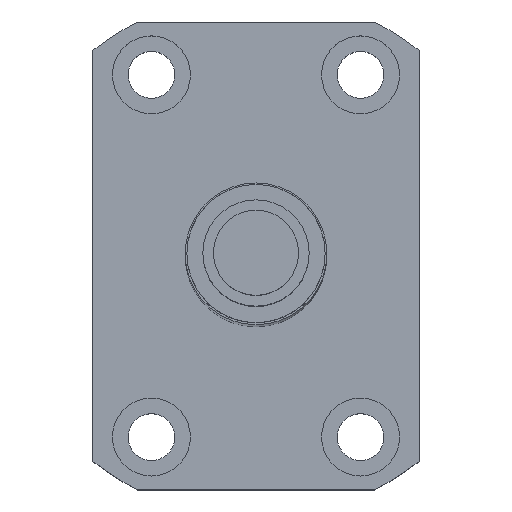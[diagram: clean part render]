
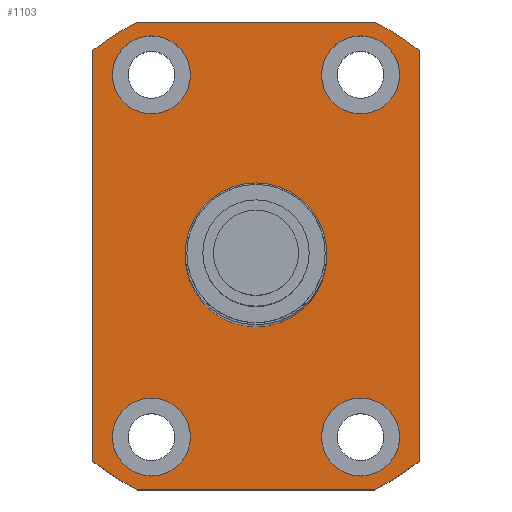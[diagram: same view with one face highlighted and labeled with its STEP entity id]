
A CAD part, top view. The second image highlights one B-rep face of the part: STEP entity #1103.
In plain terms, the highlighted planar face has unit normal (0, 0, 1).
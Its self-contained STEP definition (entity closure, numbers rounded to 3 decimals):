
#30=CARTESIAN_POINT('',(0.,0.,24.));
#31=DIRECTION('',(0.,0.,1.));
#32=DIRECTION('',(1.,0.,0.));
#33=AXIS2_PLACEMENT_3D('',#30,#31,#32);
#165=DIRECTION('',(0.,-1.,0.));
#166=VECTOR('',#165,57.966);
#167=CARTESIAN_POINT('',(23.,28.983,24.));
#168=LINE('',#167,#166);
#169=CARTESIAN_POINT('',(0.,0.,24.));
#170=DIRECTION('',(0.,0.,1.));
#171=DIRECTION('',(0.452,-0.892,0.));
#172=AXIS2_PLACEMENT_3D('',#169,#170,#171);
#174=DIRECTION('',(1.,0.,0.));
#175=VECTOR('',#174,33.466);
#176=CARTESIAN_POINT('',(-16.733,-33.,24.));
#177=LINE('',#176,#175);
#178=CARTESIAN_POINT('',(0.,0.,24.));
#179=DIRECTION('',(0.,0.,1.));
#180=DIRECTION('',(-0.622,-0.783,0.));
#181=AXIS2_PLACEMENT_3D('',#178,#179,#180);
#183=DIRECTION('',(0.,1.,0.));
#184=VECTOR('',#183,57.966);
#185=CARTESIAN_POINT('',(-23.,-28.983,24.));
#186=LINE('',#185,#184);
#187=CARTESIAN_POINT('',(0.,0.,24.));
#188=DIRECTION('',(0.,0.,1.));
#189=DIRECTION('',(-0.452,0.892,0.));
#190=AXIS2_PLACEMENT_3D('',#187,#188,#189);
#192=DIRECTION('',(-1.,0.,0.));
#193=VECTOR('',#192,33.466);
#194=CARTESIAN_POINT('',(16.733,33.,24.));
#195=LINE('',#194,#193);
#196=CARTESIAN_POINT('',(0.,0.,24.));
#197=DIRECTION('',(0.,0.,1.));
#198=DIRECTION('',(0.622,0.783,0.));
#199=AXIS2_PLACEMENT_3D('',#196,#197,#198);
#201=CARTESIAN_POINT('',(14.75,25.548,24.));
#202=DIRECTION('',(0.,0.,1.));
#203=DIRECTION('',(1.,0.,0.));
#204=AXIS2_PLACEMENT_3D('',#201,#202,#203);
#206=CARTESIAN_POINT('',(14.75,25.548,24.));
#207=DIRECTION('',(0.,0.,1.));
#208=DIRECTION('',(-1.,0.,0.));
#209=AXIS2_PLACEMENT_3D('',#206,#207,#208);
#211=CARTESIAN_POINT('',(-14.75,25.548,24.));
#212=DIRECTION('',(0.,0.,1.));
#213=DIRECTION('',(0.5,0.866,0.));
#214=AXIS2_PLACEMENT_3D('',#211,#212,#213);
#216=CARTESIAN_POINT('',(-14.75,25.548,24.));
#217=DIRECTION('',(0.,0.,1.));
#218=DIRECTION('',(-0.5,-0.866,0.));
#219=AXIS2_PLACEMENT_3D('',#216,#217,#218);
#221=CARTESIAN_POINT('',(-14.75,-25.548,24.));
#222=DIRECTION('',(0.,0.,1.));
#223=DIRECTION('',(-1.,0.,0.));
#224=AXIS2_PLACEMENT_3D('',#221,#222,#223);
#226=CARTESIAN_POINT('',(-14.75,-25.548,24.));
#227=DIRECTION('',(0.,0.,1.));
#228=DIRECTION('',(1.,0.,0.));
#229=AXIS2_PLACEMENT_3D('',#226,#227,#228);
#231=CARTESIAN_POINT('',(14.75,-25.548,24.));
#232=DIRECTION('',(0.,0.,1.));
#233=DIRECTION('',(-0.5,-0.866,0.));
#234=AXIS2_PLACEMENT_3D('',#231,#232,#233);
#236=CARTESIAN_POINT('',(14.75,-25.548,24.));
#237=DIRECTION('',(0.,0.,1.));
#238=DIRECTION('',(0.5,0.866,0.));
#239=AXIS2_PLACEMENT_3D('',#236,#237,#238);
#250=CARTESIAN_POINT('',(0.,0.,24.));
#251=DIRECTION('',(0.,0.,1.));
#252=DIRECTION('',(-1.,0.,0.));
#253=AXIS2_PLACEMENT_3D('',#250,#251,#252);
#757=CARTESIAN_POINT('',(10.,0.,24.));
#758=CARTESIAN_POINT('',(-10.,0.,24.));
#759=VERTEX_POINT('',#757);
#760=VERTEX_POINT('',#758);
#761=CARTESIAN_POINT('',(-23.,-28.983,24.));
#762=CARTESIAN_POINT('',(-16.733,-33.,24.));
#763=VERTEX_POINT('',#761);
#764=VERTEX_POINT('',#762);
#765=CARTESIAN_POINT('',(16.733,-33.,24.));
#766=VERTEX_POINT('',#765);
#767=CARTESIAN_POINT('',(23.,-28.983,24.));
#768=VERTEX_POINT('',#767);
#769=CARTESIAN_POINT('',(23.,28.983,24.));
#770=CARTESIAN_POINT('',(16.733,33.,24.));
#771=VERTEX_POINT('',#769);
#772=VERTEX_POINT('',#770);
#773=CARTESIAN_POINT('',(-16.733,33.,24.));
#774=VERTEX_POINT('',#773);
#775=CARTESIAN_POINT('',(-23.,28.983,24.));
#776=VERTEX_POINT('',#775);
#821=CARTESIAN_POINT('',(20.25,25.548,24.));
#822=CARTESIAN_POINT('',(9.25,25.548,24.));
#823=VERTEX_POINT('',#821);
#824=VERTEX_POINT('',#822);
#829=CARTESIAN_POINT('',(-12.,30.311,24.));
#830=CARTESIAN_POINT('',(-17.5,20.785,24.));
#831=VERTEX_POINT('',#829);
#832=VERTEX_POINT('',#830);
#841=CARTESIAN_POINT('',(-20.25,-25.548,24.));
#842=CARTESIAN_POINT('',(-9.25,-25.548,24.));
#843=VERTEX_POINT('',#841);
#844=VERTEX_POINT('',#842);
#853=CARTESIAN_POINT('',(12.,-30.311,24.));
#854=CARTESIAN_POINT('',(17.5,-20.785,24.));
#855=VERTEX_POINT('',#853);
#856=VERTEX_POINT('',#854);
#1052=CARTESIAN_POINT('',(0.,0.,24.));
#1053=DIRECTION('',(0.,0.,1.));
#1054=DIRECTION('',(1.,0.,0.));
#1055=AXIS2_PLACEMENT_3D('',#1052,#1053,#1054);
#1056=PLANE('',#1055);
#1058=ORIENTED_EDGE('',*,*,#1057,.T.);
#1060=ORIENTED_EDGE('',*,*,#1059,.F.);
#1062=ORIENTED_EDGE('',*,*,#1061,.F.);
#1064=ORIENTED_EDGE('',*,*,#1063,.F.);
#1066=ORIENTED_EDGE('',*,*,#1065,.T.);
#1068=ORIENTED_EDGE('',*,*,#1067,.F.);
#1070=ORIENTED_EDGE('',*,*,#1069,.F.);
#1072=ORIENTED_EDGE('',*,*,#1071,.F.);
#1073=EDGE_LOOP('',(#1058,#1060,#1062,#1064,#1066,#1068,#1070,#1072));
#1074=FACE_OUTER_BOUND('',#1073,.F.);
#1075=ORIENTED_EDGE('',*,*,#899,.T.);
#1077=ORIENTED_EDGE('',*,*,#1076,.T.);
#1078=EDGE_LOOP('',(#1075,#1077));
#1079=FACE_BOUND('',#1078,.F.);
#1080=ORIENTED_EDGE('',*,*,#1042,.T.);
#1082=ORIENTED_EDGE('',*,*,#1081,.T.);
#1083=EDGE_LOOP('',(#1080,#1082));
#1084=FACE_BOUND('',#1083,.F.);
#1086=ORIENTED_EDGE('',*,*,#1085,.T.);
#1088=ORIENTED_EDGE('',*,*,#1087,.T.);
#1089=EDGE_LOOP('',(#1086,#1088));
#1090=FACE_BOUND('',#1089,.F.);
#1092=ORIENTED_EDGE('',*,*,#1091,.T.);
#1094=ORIENTED_EDGE('',*,*,#1093,.T.);
#1095=EDGE_LOOP('',(#1092,#1094));
#1096=FACE_BOUND('',#1095,.F.);
#1098=ORIENTED_EDGE('',*,*,#1097,.T.);
#1100=ORIENTED_EDGE('',*,*,#1099,.T.);
#1101=EDGE_LOOP('',(#1098,#1100));
#1102=FACE_BOUND('',#1101,.F.);
#1103=ADVANCED_FACE('',(#1074,#1079,#1084,#1090,#1096,#1102),#1056,.T.);
#34=CIRCLE('',#33,10.);
#173=CIRCLE('',#172,37.);
#182=CIRCLE('',#181,37.);
#191=CIRCLE('',#190,37.);
#200=CIRCLE('',#199,37.);
#205=CIRCLE('',#204,5.5);
#210=CIRCLE('',#209,5.5);
#215=CIRCLE('',#214,5.5);
#220=CIRCLE('',#219,5.5);
#225=CIRCLE('',#224,5.5);
#230=CIRCLE('',#229,5.5);
#235=CIRCLE('',#234,5.5);
#240=CIRCLE('',#239,5.5);
#254=CIRCLE('',#253,10.);
#899=EDGE_CURVE('',#759,#760,#34,.T.);
#1042=EDGE_CURVE('',#823,#824,#205,.T.);
#1057=EDGE_CURVE('',#771,#768,#168,.T.);
#1059=EDGE_CURVE('',#766,#768,#173,.T.);
#1061=EDGE_CURVE('',#764,#766,#177,.T.);
#1063=EDGE_CURVE('',#763,#764,#182,.T.);
#1065=EDGE_CURVE('',#763,#776,#186,.T.);
#1067=EDGE_CURVE('',#774,#776,#191,.T.);
#1069=EDGE_CURVE('',#772,#774,#195,.T.);
#1071=EDGE_CURVE('',#771,#772,#200,.T.);
#1076=EDGE_CURVE('',#760,#759,#254,.T.);
#1081=EDGE_CURVE('',#824,#823,#210,.T.);
#1085=EDGE_CURVE('',#831,#832,#215,.T.);
#1087=EDGE_CURVE('',#832,#831,#220,.T.);
#1091=EDGE_CURVE('',#843,#844,#225,.T.);
#1093=EDGE_CURVE('',#844,#843,#230,.T.);
#1097=EDGE_CURVE('',#855,#856,#235,.T.);
#1099=EDGE_CURVE('',#856,#855,#240,.T.);
